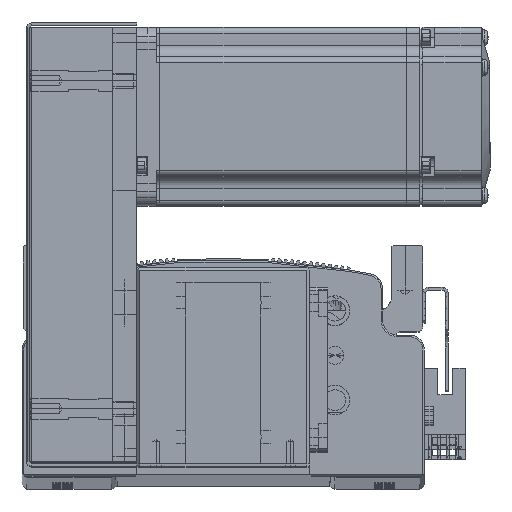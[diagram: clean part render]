
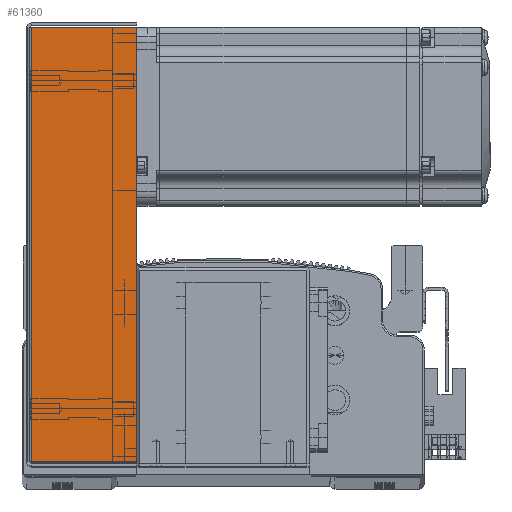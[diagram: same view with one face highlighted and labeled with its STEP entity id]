
A CAD part, top view. The second image highlights one B-rep face of the part: STEP entity #61360.
In plain terms, the highlighted planar face has unit normal (0, 0, 1).
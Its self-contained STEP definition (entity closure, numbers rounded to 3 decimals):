
#21992 = CARTESIAN_POINT ( 'NONE',  ( -74.5, 0.737, 34.5 ) ) ;
#22000 = DIRECTION ( 'NONE',  ( -1., 0., 0. ) ) ;
#22158 = CARTESIAN_POINT ( 'NONE',  ( -72.793, 0., 34.5 ) ) ;
#22167 = DIRECTION ( 'NONE',  ( 0., 1., 0. ) ) ;
#22251 = DIRECTION ( 'NONE',  ( 0., 1., 0. ) ) ;
#22300 = CARTESIAN_POINT ( 'NONE',  ( 72.793, 0., 34.5 ) ) ;
#22343 = CARTESIAN_POINT ( 'NONE',  ( 0., 36., 34.5 ) ) ;
#22365 = DIRECTION ( 'NONE',  ( -1., 0., 0. ) ) ;
#28901 = CARTESIAN_POINT ( 'NONE',  ( -72.793, 36., 34.5 ) ) ;
#28938 = CARTESIAN_POINT ( 'NONE',  ( 72.793, 36., 34.5 ) ) ;
#28951 = CARTESIAN_POINT ( 'NONE',  ( -72.793, 0.737, 34.5 ) ) ;
#28979 = CARTESIAN_POINT ( 'NONE',  ( 72.793, 0.737, 34.5 ) ) ;
#29798 = FACE_OUTER_BOUND ( 'NONE', #89875, .T. ) ;
#30292 = LINE ( 'NONE', #21992, #30317 ) ;
#30317 = VECTOR ( 'NONE', #22000, 1000. ) ;
#30376 = LINE ( 'NONE', #22300, #30389 ) ;
#30380 = LINE ( 'NONE', #22343, #30413 ) ;
#30381 = LINE ( 'NONE', #22158, #30402 ) ;
#30389 = VECTOR ( 'NONE', #22251, 1000. ) ;
#30402 = VECTOR ( 'NONE', #22167, 1000. ) ;
#30413 = VECTOR ( 'NONE', #22365, 1000. ) ;
#31349 = PLANE ( 'NONE',  #47594 ) ;
#31350 = DIRECTION ( 'NONE',  ( 0., 0., -1. ) ) ;
#31365 = CARTESIAN_POINT ( 'NONE',  ( 0., 0., 34.5 ) ) ;
#31391 = DIRECTION ( 'NONE',  ( -1., 0., 0. ) ) ;
#47594 = AXIS2_PLACEMENT_3D ( 'NONE', #31365, #31350, #31391 ) ;
#61360 = ADVANCED_FACE ( 'NONE', ( #29798 ), #31349, .F. ) ;
#63578 = VERTEX_POINT ( 'NONE', #28901 ) ;
#63618 = VERTEX_POINT ( 'NONE', #28951 ) ;
#63629 = VERTEX_POINT ( 'NONE', #28938 ) ;
#63643 = VERTEX_POINT ( 'NONE', #28979 ) ;
#66600 = ORIENTED_EDGE ( 'NONE', *, *, #68499, .T. ) ;
#66621 = ORIENTED_EDGE ( 'NONE', *, *, #68514, .T. ) ;
#66622 = ORIENTED_EDGE ( 'NONE', *, *, #68491, .F. ) ;
#66641 = ORIENTED_EDGE ( 'NONE', *, *, #68462, .F. ) ;
#68462 = EDGE_CURVE ( 'NONE', #63643, #63618, #30292, .T. ) ;
#68491 = EDGE_CURVE ( 'NONE', #63618, #63578, #30381, .T. ) ;
#68499 = EDGE_CURVE ( 'NONE', #63643, #63629, #30376, .T. ) ;
#68514 = EDGE_CURVE ( 'NONE', #63629, #63578, #30380, .T. ) ;
#89875 = EDGE_LOOP ( 'NONE', ( #66641, #66600, #66621, #66622 ) ) ;
